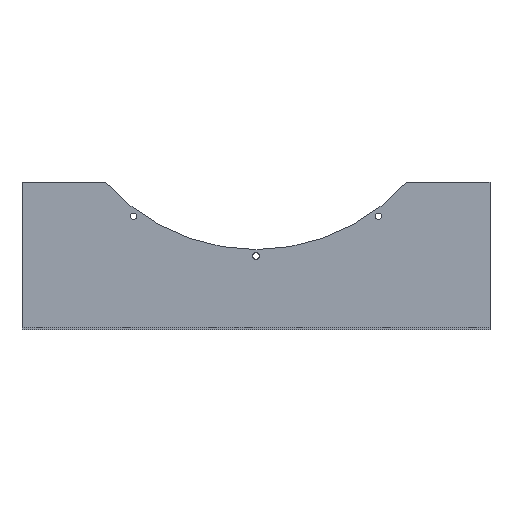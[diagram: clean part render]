
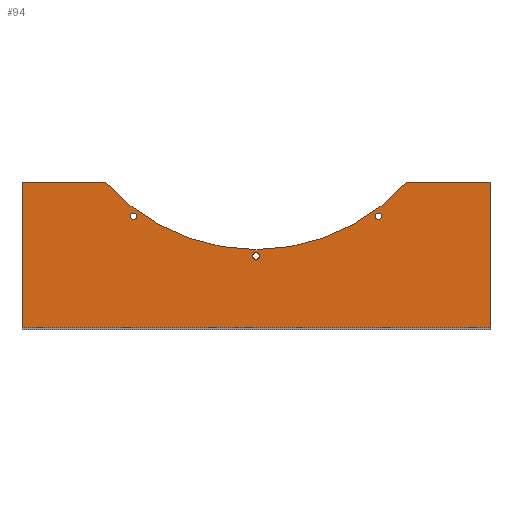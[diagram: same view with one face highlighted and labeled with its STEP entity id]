
A CAD part, top view. The second image highlights one B-rep face of the part: STEP entity #94.
In plain terms, the highlighted planar face has unit normal (0, 0, 1).
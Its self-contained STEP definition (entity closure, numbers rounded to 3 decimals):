
#94=ADVANCED_FACE('',(#191,#192,#193,#194),#195,.T.);
#191=FACE_BOUND('',#300,.T.);
#192=FACE_BOUND('',#301,.T.);
#193=FACE_BOUND('',#302,.T.);
#194=FACE_OUTER_BOUND('',#303,.T.);
#195=PLANE('',#304);
#300=EDGE_LOOP('',(#513,#514));
#301=EDGE_LOOP('',(#515,#516));
#302=EDGE_LOOP('',(#517,#518));
#303=EDGE_LOOP('',(#519,#520,#521,#522,#523,#524));
#304=AXIS2_PLACEMENT_3D('',#525,#526,#527);
#513=ORIENTED_EDGE('',*,*,#646,.T.);
#514=ORIENTED_EDGE('',*,*,#651,.T.);
#515=ORIENTED_EDGE('',*,*,#641,.T.);
#516=ORIENTED_EDGE('',*,*,#654,.T.);
#517=ORIENTED_EDGE('',*,*,#636,.T.);
#518=ORIENTED_EDGE('',*,*,#657,.T.);
#519=ORIENTED_EDGE('',*,*,#659,.T.);
#520=ORIENTED_EDGE('',*,*,#691,.F.);
#521=ORIENTED_EDGE('',*,*,#692,.F.);
#522=ORIENTED_EDGE('',*,*,#693,.F.);
#523=ORIENTED_EDGE('',*,*,#694,.F.);
#524=ORIENTED_EDGE('',*,*,#670,.F.);
#525=CARTESIAN_POINT('',(0.0,4.0,-26.0));
#526=DIRECTION('',(0.0,0.0,1.0));
#527=DIRECTION('',(1.0,0.0,0.0));
#636=EDGE_CURVE('',#768,#765,#769,.T.);
#641=EDGE_CURVE('',#777,#774,#778,.T.);
#646=EDGE_CURVE('',#786,#783,#787,.T.);
#651=EDGE_CURVE('',#783,#786,#793,.T.);
#654=EDGE_CURVE('',#774,#777,#796,.T.);
#657=EDGE_CURVE('',#765,#768,#799,.T.);
#659=EDGE_CURVE('',#801,#802,#803,.T.);
#670=EDGE_CURVE('',#801,#820,#821,.T.);
#691=EDGE_CURVE('',#842,#802,#843,.T.);
#692=EDGE_CURVE('',#844,#842,#845,.T.);
#693=EDGE_CURVE('',#846,#844,#847,.T.);
#694=EDGE_CURVE('',#820,#846,#848,.T.);
#765=VERTEX_POINT('',#935);
#768=VERTEX_POINT('',#939);
#769=CIRCLE('',#940,6.5);
#774=VERTEX_POINT('',#946);
#777=VERTEX_POINT('',#950);
#778=CIRCLE('',#951,6.5);
#783=VERTEX_POINT('',#957);
#786=VERTEX_POINT('',#961);
#787=CIRCLE('',#962,6.5);
#793=CIRCLE('',#969,6.5);
#796=CIRCLE('',#972,6.5);
#799=CIRCLE('',#975,6.5);
#801=VERTEX_POINT('',#977);
#802=VERTEX_POINT('',#978);
#803=CIRCLE('',#979,410.0);
#820=VERTEX_POINT('',#1003);
#821=LINE('',#1004,#1005);
#842=VERTEX_POINT('',#1027);
#843=LINE('',#1028,#1029);
#844=VERTEX_POINT('',#1030);
#845=LINE('',#1031,#1032);
#846=VERTEX_POINT('',#1033);
#847=LINE('',#1034,#1035);
#848=LINE('',#1036,#1037);
#935=CARTESIAN_POINT('',(6.5,0.,-26.0));
#939=CARTESIAN_POINT('',(-6.5,0.,-26.0));
#940=AXIS2_PLACEMENT_3D('',#1115,#1116,#1117);
#946=CARTESIAN_POINT('',(253.892,84.606,-26.0));
#950=CARTESIAN_POINT('',(243.375,76.965,-26.0));
#951=AXIS2_PLACEMENT_3D('',#1123,#1124,#1125);
#957=CARTESIAN_POINT('',(-243.375,76.965,-26.0));
#961=CARTESIAN_POINT('',(-253.892,84.606,-26.0));
#962=AXIS2_PLACEMENT_3D('',#1131,#1132,#1133);
#969=AXIS2_PLACEMENT_3D('',#1141,#1142,#1143);
#972=AXIS2_PLACEMENT_3D('',#1147,#1148,#1149);
#975=AXIS2_PLACEMENT_3D('',#1153,#1154,#1155);
#977=CARTESIAN_POINT('',(305.894,150.0,-26.0));
#978=CARTESIAN_POINT('',(-305.894,150.0,-26.0));
#979=AXIS2_PLACEMENT_3D('',#1156,#1157,#1158);
#1003=CARTESIAN_POINT('',(475.0,150.0,-26.0));
#1004=CARTESIAN_POINT('',(0.0,150.0,-26.0));
#1005=VECTOR('',#1169,1.0);
#1027=CARTESIAN_POINT('',(-475.0,150.0,-26.0));
#1028=CARTESIAN_POINT('',(0.0,150.0,-26.0));
#1029=VECTOR('',#1207,1.0);
#1030=CARTESIAN_POINT('',(-475.0,-146.0,-26.0));
#1031=CARTESIAN_POINT('',(-475.0,2.0,-26.0));
#1032=VECTOR('',#1208,1.0);
#1033=CARTESIAN_POINT('',(475.0,-146.0,-26.0));
#1034=CARTESIAN_POINT('',(0.0,-146.0,-26.0));
#1035=VECTOR('',#1209,1.0);
#1036=CARTESIAN_POINT('',(475.0,2.0,-26.0));
#1037=VECTOR('',#1210,1.0);
#1115=CARTESIAN_POINT('',(0.0,0.0,-26.0));
#1116=DIRECTION('',(0.0,0.0,-1.0));
#1117=DIRECTION('',(1.0,0.0,0.0));
#1123=CARTESIAN_POINT('',(248.633,80.786,-26.0));
#1124=DIRECTION('',(0.0,0.0,-1.0));
#1125=DIRECTION('',(0.809,0.588,0.0));
#1131=CARTESIAN_POINT('',(-248.633,80.786,-26.0));
#1132=DIRECTION('',(0.0,-0.0,-1.0));
#1133=DIRECTION('',(0.809,-0.588,0.0));
#1141=CARTESIAN_POINT('',(-248.633,80.786,-26.0));
#1142=DIRECTION('',(0.0,-0.0,-1.0));
#1143=DIRECTION('',(0.809,-0.588,0.0));
#1147=CARTESIAN_POINT('',(248.633,80.786,-26.0));
#1148=DIRECTION('',(0.0,0.0,-1.0));
#1149=DIRECTION('',(0.809,0.588,0.0));
#1153=CARTESIAN_POINT('',(0.0,0.0,-26.0));
#1154=DIRECTION('',(0.0,0.0,-1.0));
#1155=DIRECTION('',(1.0,0.0,0.0));
#1156=CARTESIAN_POINT('',(0.0,423.0,-26.0));
#1157=DIRECTION('',(0.0,0.0,-1.0));
#1158=DIRECTION('',(1.0,0.0,0.0));
#1169=DIRECTION('',(1.0,0.0,-0.0));
#1207=DIRECTION('',(1.0,0.0,-0.0));
#1208=DIRECTION('',(0.0,1.0,0.0));
#1209=DIRECTION('',(-1.0,0.0,0.0));
#1210=DIRECTION('',(0.0,-1.0,0.0));
